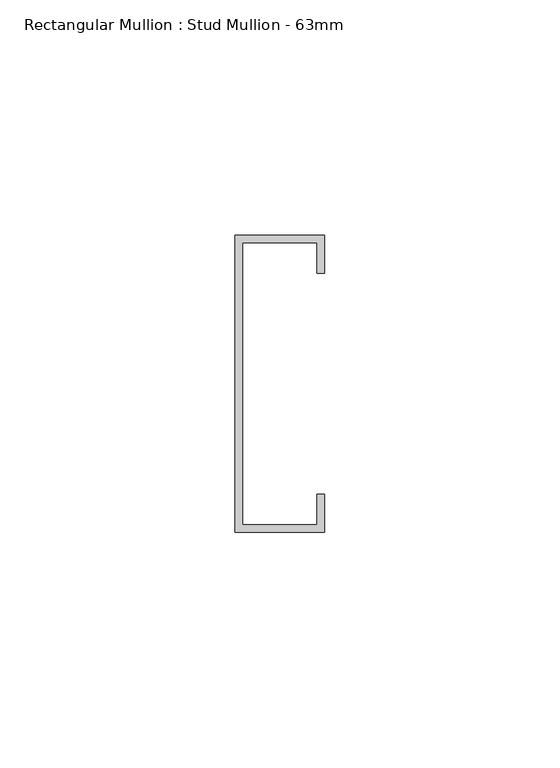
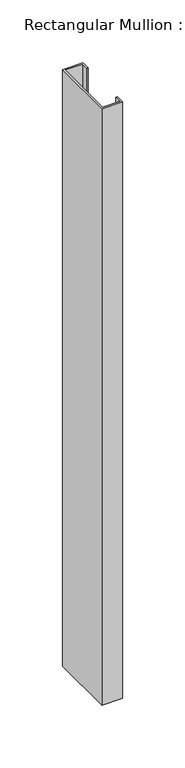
"""IFC4 building model written with IfcOpenShell, lengths in millimetres: member geometry, Rectangular Mullion : Stud Mullion - 63mm."""

import ifcopenshell
import ifcopenshell.guid

model = None  # the IFC model being written
_history = None  # IfcOwnerHistory: only IFC2X3 demands one
_inside = {}  # id of a spatial element -> (the spatial element, [elements in it])
_under = {}  # id of a project, library or spatial element -> (it, [spatial elements below it])
_declared = {}  # id of a project -> (the project, [libraries it declares])
_typed = {}  # id of a type object -> (the type object, [elements of that type])
_made_of = {}  # id of a material, layer set ... -> (it, [elements and type objects made of it])


def new_model(schema):
    """Start an empty IFC model of exactly this schema.

    Asked for "IFC4X3", IfcOpenShell would pick the latest addendum, in which some entities
    have other attributes; the version numbers below select the first issue.
    IFC2X3 requires an IfcOwnerHistory on every rooted entity: one is made here for all.
    """
    global model, _history
    if schema == "IFC4X3":
        model = ifcopenshell.file(schema_version=(4, 3, 0, 0))
    else:
        model = ifcopenshell.file(schema=schema)
    _inside.clear()
    _under.clear()
    _declared.clear()
    _typed.clear()
    _made_of.clear()
    _history = None
    if model.schema == "IFC2X3":
        org = make("IfcOrganization", Name="unknown")
        user = make(
            "IfcPersonAndOrganization",
            ThePerson=make("IfcPerson", FamilyName="unknown"),
            TheOrganization=org,
        )
        app = make(
            "IfcApplication",
            ApplicationDeveloper=org,
            Version="unknown",
            ApplicationFullName="unknown",
            ApplicationIdentifier="unknown",
        )
        _history = make(
            "IfcOwnerHistory",
            OwningUser=user,
            OwningApplication=app,
            ChangeAction="ADDED",
            CreationDate=0,
        )
    return model


def make(cls, **values):
    """One entity of the class cls with the attributes given. An attribute that is None is left unset."""
    return model.create_entity(
        cls, **{name: value for name, value in values.items() if value is not None}
    )


def rooted(cls, **values):
    """An entity with a GlobalId (a new one), such as an element, a storey or a relation."""
    return make(cls, GlobalId=ifcopenshell.guid.new(), OwnerHistory=_history, **values)


def si_unit(unit_type, name, prefix=None):
    """IfcSIUnit, for example si_unit("LENGTHUNIT", "METRE", prefix="MILLI")."""
    return make("IfcSIUnit", UnitType=unit_type, Prefix=prefix, Name=name)


def assignment(units):
    """IfcUnitAssignment: the units of a project."""
    return None if units is None else make("IfcUnitAssignment", Units=units)


def point(xyz):
    """IfcCartesianPoint."""
    return None if xyz is None else make("IfcCartesianPoint", Coordinates=xyz)


def direction(xyz):
    """IfcDirection."""
    return None if xyz is None else make("IfcDirection", DirectionRatios=xyz)


def frame(location, z_axis=None, x_axis=None):
    """IfcAxis2Placement3D, a coordinate frame: its origin and axes. An axis left out is left unset."""
    return make(
        "IfcAxis2Placement3D",
        Location=point(location),
        Axis=direction(z_axis),
        RefDirection=direction(x_axis),
    )


def origin():
    """The frame at (0, 0, 0) with its axes left unset."""
    return frame((0.0, 0.0, 0.0))


def place(relative_to, where):
    """IfcLocalPlacement: puts the frame where relative to a parent placement (None: the world)."""
    return make(
        "IfcLocalPlacement", PlacementRelTo=relative_to, RelativePlacement=where
    )


def context(
    kind, dimensions, precision=None, world=None, true_north=None, identifier=None
):
    """IfcGeometricRepresentationContext, for example the 3D "Model" context."""
    return make(
        "IfcGeometricRepresentationContext",
        ContextIdentifier=identifier,
        ContextType=kind,
        CoordinateSpaceDimension=dimensions,
        Precision=precision,
        WorldCoordinateSystem=world,
        TrueNorth=true_north,
    )


def project(units=None, contexts=None):
    """IfcProject with its units and contexts."""
    return rooted(
        "IfcProject",
        Name="project",
        RepresentationContexts=contexts,
        UnitsInContext=assignment(units),
    )


def spatial(cls, under=None, at=None, **own):
    """A site, building, storey or space (cls), placed at a placement, below another one or the project."""
    s = rooted(cls, ObjectPlacement=at, **own)
    if under is not None:
        _under.setdefault(under.id(), (under, []))[1].append(s)
    return s


def polyline(points):
    """IfcPolyline through the points."""
    return make("IfcPolyline", Points=[point(p) for p in points])


def outline(outer, holes=None, kind="AREA"):
    """IfcArbitraryClosedProfileDef: a profile drawn as a closed curve; with holes, ...WithVoids."""
    if holes is None:
        return make("IfcArbitraryClosedProfileDef", ProfileType=kind, OuterCurve=outer)
    return make(
        "IfcArbitraryProfileDefWithVoids",
        ProfileType=kind,
        OuterCurve=outer,
        InnerCurves=holes,
    )


def extrude(swept, where, along, depth):
    """IfcExtrudedAreaSolid: the profile swept, set in the frame where, extruded along a direction by depth."""
    return make(
        "IfcExtrudedAreaSolid",
        SweptArea=swept,
        Position=where,
        ExtrudedDirection=direction(along),
        Depth=depth,
    )


def shape(context_of_items, identifier, shape_type, items):
    """IfcShapeRepresentation: the items that make up one representation, for example the "Body"."""
    return make(
        "IfcShapeRepresentation",
        ContextOfItems=context_of_items,
        RepresentationIdentifier=identifier,
        RepresentationType=shape_type,
        Items=items,
    )


def source(mapping_origin, context_of_items, identifier, shape_type, items):
    """IfcRepresentationMap: a shape defined once, which mapped items show again and again."""
    return make(
        "IfcRepresentationMap",
        MappingOrigin=mapping_origin,
        MappedRepresentation=shape(context_of_items, identifier, shape_type, items),
    )


def transform(
    local_origin,
    x_axis=None,
    y_axis=None,
    z_axis=None,
    scale=None,
    scale2=None,
    scale3=None,
    uniform=True,
):
    """IfcCartesianTransformationOperator3D, or its non-uniform kind. x_axis, y_axis, z_axis: its Axis1, 2, 3."""
    if uniform:
        return make(
            "IfcCartesianTransformationOperator3D",
            Axis1=direction(x_axis),
            Axis2=direction(y_axis),
            LocalOrigin=point(local_origin),
            Scale=scale,
            Axis3=direction(z_axis),
        )
    return make(
        "IfcCartesianTransformationOperator3DnonUniform",
        Axis1=direction(x_axis),
        Axis2=direction(y_axis),
        LocalOrigin=point(local_origin),
        Scale=scale,
        Axis3=direction(z_axis),
        Scale2=scale2,
        Scale3=scale3,
    )


def mapped(mapping_source, mapping_target):
    """IfcMappedItem: shows the shape of a source again, moved by a transform."""
    return make(
        "IfcMappedItem", MappingSource=mapping_source, MappingTarget=mapping_target
    )


def made_of(thing, what):
    """Note that an element or type object is made of a material, layer set ...; save() writes the relation."""
    if what is not None:
        _made_of.setdefault(what.id(), (what, []))[1].append(thing)
    return thing


def element(
    cls,
    number,
    at=None,
    inside=None,
    cuts=None,
    type_object=None,
    material=None,
    context=None,
    identifier="Body",
    shape_type=None,
    held_by="IfcProductDefinitionShape",
    body=None,
    shapes=None,
    **own,
):
    """One element of the class cls, such as IfcWall. Its Tag is "e" and its number.

    at: its placement. inside: the storey or other place that contains it. cuts: it is an
    opening in that element (IfcRelVoidsElement). A single representation is given by context,
    identifier, shape_type and body (its items); several are given by shapes. held_by: the class
    of the entity that holds the representations. save() writes the other relations.
    """
    e = rooted(cls, Tag="e%d" % number, ObjectPlacement=at, **own)
    if body is not None:
        shapes = [shape(context, identifier, shape_type, body)]
    if shapes is not None:
        e.Representation = make(held_by, Representations=shapes)
    if inside is not None:
        _inside.setdefault(inside.id(), (inside, []))[1].append(e)
    if cuts is not None:
        rooted(
            "IfcRelVoidsElement", RelatingBuildingElement=cuts, RelatedOpeningElement=e
        )
    if type_object is not None:
        _typed.setdefault(type_object.id(), (type_object, []))[1].append(e)
    return made_of(e, material)


def aggregate(whole, parts):
    """IfcRelAggregates: a whole, such as a stair, and the parts it consists of."""
    return rooted("IfcRelAggregates", RelatingObject=whole, RelatedObjects=parts)


def save(model, path):
    """Write the relations noted so far, then the file.

    IfcRelAggregates (storeys below a building ...), IfcRelContainedInSpatialStructure (elements
    in a storey), IfcRelDefinesByType, IfcRelAssociatesMaterial and IfcRelDeclares: one each for
    every whole, place, type object, material and project.
    """
    for whole, parts in _under.values():
        aggregate(whole, parts)
    for where, things in _inside.values():
        rooted(
            "IfcRelContainedInSpatialStructure",
            RelatedElements=things,
            RelatingStructure=where,
        )
    for kind, things in _typed.values():
        rooted("IfcRelDefinesByType", RelatedObjects=things, RelatingType=kind)
    for what, things in _made_of.values():
        rooted("IfcRelAssociatesMaterial", RelatedObjects=things, RelatingMaterial=what)
    for by, libraries in _declared.values():
        rooted("IfcRelDeclares", RelatingContext=by, RelatedDefinitions=libraries)
    model.write(path)


def rectangular_mullion_stud_mullion_63mm_ab3eab4e(model_context):
    return source(origin(), model_context, "Body", "SweptSolid", [
        extrude(outline(polyline([(0.0, 23.5), (-1.6, 23.5), (-1.6, 29.9), (-17.4, 29.9), (-17.4, -29.9), (-1.6, -29.9), (-1.6, -23.5), (0.0, -23.5), (0.0, -31.5), (-19.0, -31.5), (-19.0, 31.5), (0.0, 31.5), (0.0, 23.5)])), frame((0.0, 0.0, -581.0000003), z_axis=(0.0, 0.0, 1.0), x_axis=(1.0, 0.0, 0.0)), (0.0, 0.0, 1.0), 581.0000003),
    ])


if __name__ == "__main__":
    model = new_model("IFC4")
    model_context = context("Model", 3, world=origin())
    ifc_project = project(units=[si_unit("LENGTHUNIT", "METRE", prefix="MILLI")], contexts=[model_context])
    site = spatial("IfcSite", under=ifc_project)
    building = spatial("IfcBuilding", under=site)
    placement = place(None, origin())
    rectangular_mullion_stud_mullion_63mm_shape = rectangular_mullion_stud_mullion_63mm_ab3eab4e(model_context)
    element("IfcMember", 1, ObjectType="Rectangular Mullion : Stud Mullion - 63mm", at=placement, inside=building, context=model_context, shape_type="MappedRepresentation", body=[
        mapped(rectangular_mullion_stud_mullion_63mm_shape, transform((0.0, 0.0, 0.0), x_axis=(1.0, 0.0, 0.0), y_axis=(0.0, 1.0, 0.0), z_axis=(0.0, 0.0, 1.0))),
    ])
    save(model, "model.ifc")
